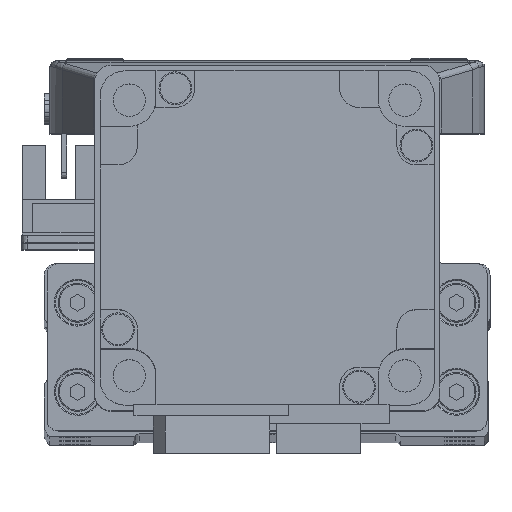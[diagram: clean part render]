
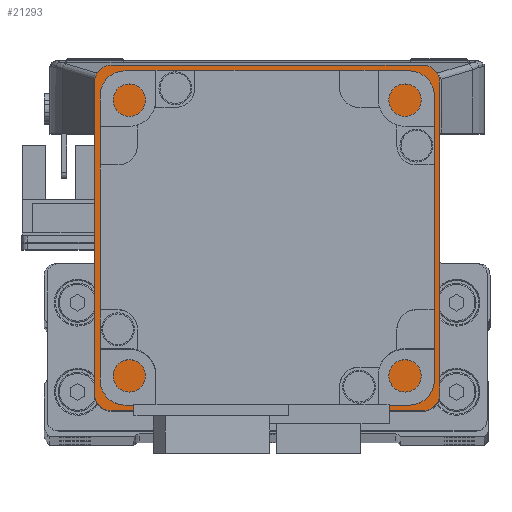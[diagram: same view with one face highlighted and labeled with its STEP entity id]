
A CAD part, top view. The second image highlights one B-rep face of the part: STEP entity #21293.
In plain terms, the highlighted planar face has unit normal (0, 0, 1).
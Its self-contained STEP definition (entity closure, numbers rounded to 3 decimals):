
#1082 = LINE ( 'NONE', #39745, #1092 ) ;
#1092 = VECTOR ( 'NONE', #39771, 1000. ) ;
#1339 = CIRCLE ( 'NONE', #3888, 3. ) ;
#1557 = CIRCLE ( 'NONE', #3851, 3. ) ;
#1560 = CIRCLE ( 'NONE', #3852, 3. ) ;
#1857 = LINE ( 'NONE', #39777, #1942 ) ;
#1942 = VECTOR ( 'NONE', #39743, 1000. ) ;
#1952 = CIRCLE ( 'NONE', #3865, 25. ) ;
#3851 = AXIS2_PLACEMENT_3D ( 'NONE', #39755, #39754, #39742 ) ;
#3852 = AXIS2_PLACEMENT_3D ( 'NONE', #39791, #39792, #39787 ) ;
#3865 = AXIS2_PLACEMENT_3D ( 'NONE', #39784, #39813, #39790 ) ;
#3879 = AXIS2_PLACEMENT_3D ( 'NONE', #40021, #40024, #40015 ) ;
#3888 = AXIS2_PLACEMENT_3D ( 'NONE', #39765, #39773, #39766 ) ;
#3900 = AXIS2_PLACEMENT_3D ( 'NONE', #40102, #40101, #40083 ) ;
#4752 = EDGE_LOOP ( 'NONE', ( #5294, #5270 ) ) ;
#4799 = EDGE_LOOP ( 'NONE', ( #5350, #5361, #5272, #5282, #5378, #5326, #5311, #5320 ) ) ;
#5270 = ORIENTED_EDGE ( 'NONE', *, *, #20031, .F. ) ;
#5272 = ORIENTED_EDGE ( 'NONE', *, *, #19905, .T. ) ;
#5282 = ORIENTED_EDGE ( 'NONE', *, *, #19899, .T. ) ;
#5294 = ORIENTED_EDGE ( 'NONE', *, *, #19906, .F. ) ;
#5311 = ORIENTED_EDGE ( 'NONE', *, *, #19892, .T. ) ;
#5320 = ORIENTED_EDGE ( 'NONE', *, *, #19912, .T. ) ;
#5326 = ORIENTED_EDGE ( 'NONE', *, *, #20004, .T. ) ;
#5350 = ORIENTED_EDGE ( 'NONE', *, *, #19922, .T. ) ;
#5361 = ORIENTED_EDGE ( 'NONE', *, *, #19901, .T. ) ;
#5378 = ORIENTED_EDGE ( 'NONE', *, *, #19923, .T. ) ;
#6030 = AXIS2_PLACEMENT_3D ( 'NONE', #17214, #17216, #17175 ) ;
#11075 = CARTESIAN_POINT ( 'NONE',  ( -25., 35.5, 79. ) ) ;
#11093 = CARTESIAN_POINT ( 'NONE',  ( 25., 35.5, 79. ) ) ;
#12237 = CARTESIAN_POINT ( 'NONE',  ( 27.995, 4.505, 79. ) ) ;
#12265 = CARTESIAN_POINT ( 'NONE',  ( 27.995, 66.495, 79. ) ) ;
#12297 = CARTESIAN_POINT ( 'NONE',  ( -27.995, 4.505, 79. ) ) ;
#12311 = CARTESIAN_POINT ( 'NONE',  ( -30.995, 7.505, 79. ) ) ;
#12346 = CARTESIAN_POINT ( 'NONE',  ( -30.995, 63.495, 79. ) ) ;
#12355 = CARTESIAN_POINT ( 'NONE',  ( -27.995, 66.495, 79. ) ) ;
#12360 = CARTESIAN_POINT ( 'NONE',  ( 30.995, 7.505, 79. ) ) ;
#12391 = CARTESIAN_POINT ( 'NONE',  ( 30.995, 63.495, 79. ) ) ;
#17084 = FACE_BOUND ( 'NONE', #4752, .T. ) ;
#17086 = FACE_OUTER_BOUND ( 'NONE', #4799, .T. ) ;
#17175 = DIRECTION ( 'NONE',  ( 1., 0., 0. ) ) ;
#17207 = PLANE ( 'NONE',  #6030 ) ;
#17214 = CARTESIAN_POINT ( 'NONE',  ( 0., 0., 79. ) ) ;
#17216 = DIRECTION ( 'NONE',  ( 0., 0., 1. ) ) ;
#19892 = EDGE_CURVE ( 'NONE', #45378, #45459, #1082, .T. ) ;
#19899 = EDGE_CURVE ( 'NONE', #45365, #45460, #1339, .T. ) ;
#19901 = EDGE_CURVE ( 'NONE', #45454, #45423, #1557, .T. ) ;
#19905 = EDGE_CURVE ( 'NONE', #45423, #45365, #1857, .T. ) ;
#19906 = EDGE_CURVE ( 'NONE', #27360, #27328, #1952, .T. ) ;
#19912 = EDGE_CURVE ( 'NONE', #45459, #45406, #1560, .T. ) ;
#19922 = EDGE_CURVE ( 'NONE', #45406, #45454, #43462, .T. ) ;
#19923 = EDGE_CURVE ( 'NONE', #45460, #45425, #43512, .T. ) ;
#20004 = EDGE_CURVE ( 'NONE', #45425, #45378, #43748, .T. ) ;
#20031 = EDGE_CURVE ( 'NONE', #27328, #27360, #43872, .T. ) ;
#21293 = ADVANCED_FACE ( 'NONE', ( #17084, #17086 ), #17207, .T. ) ;
#27328 = VERTEX_POINT ( 'NONE', #11075 ) ;
#27360 = VERTEX_POINT ( 'NONE', #11093 ) ;
#39742 = DIRECTION ( 'NONE',  ( 1., 0., 0. ) ) ;
#39743 = DIRECTION ( 'NONE',  ( 1., 0., 0. ) ) ;
#39745 = CARTESIAN_POINT ( 'NONE',  ( 30.995, 66.495, 79. ) ) ;
#39754 = DIRECTION ( 'NONE',  ( 0., 0., 1. ) ) ;
#39755 = CARTESIAN_POINT ( 'NONE',  ( -27.995, 7.505, 79. ) ) ;
#39765 = CARTESIAN_POINT ( 'NONE',  ( 27.995, 7.505, 79. ) ) ;
#39766 = DIRECTION ( 'NONE',  ( 1., 0., 0. ) ) ;
#39771 = DIRECTION ( 'NONE',  ( -1., 0., 0. ) ) ;
#39773 = DIRECTION ( 'NONE',  ( 0., 0., 1. ) ) ;
#39777 = CARTESIAN_POINT ( 'NONE',  ( 30.995, 4.505, 79. ) ) ;
#39784 = CARTESIAN_POINT ( 'NONE',  ( 0., 35.5, 79. ) ) ;
#39787 = DIRECTION ( 'NONE',  ( 1., 0., 0. ) ) ;
#39790 = DIRECTION ( 'NONE',  ( 1., 0., 0. ) ) ;
#39791 = CARTESIAN_POINT ( 'NONE',  ( -27.995, 63.495, 79. ) ) ;
#39792 = DIRECTION ( 'NONE',  ( 0., 0., 1. ) ) ;
#39813 = DIRECTION ( 'NONE',  ( 0., 0., 1. ) ) ;
#39814 = CARTESIAN_POINT ( 'NONE',  ( 30.995, 4.505, 79. ) ) ;
#39815 = DIRECTION ( 'NONE',  ( 0., 1., 0. ) ) ;
#39816 = CARTESIAN_POINT ( 'NONE',  ( -30.995, 4.505, 79. ) ) ;
#39817 = DIRECTION ( 'NONE',  ( 0., -1., 0. ) ) ;
#40015 = DIRECTION ( 'NONE',  ( 1., 0., 0. ) ) ;
#40021 = CARTESIAN_POINT ( 'NONE',  ( 27.995, 63.495, 79. ) ) ;
#40024 = DIRECTION ( 'NONE',  ( 0., 0., 1. ) ) ;
#40083 = DIRECTION ( 'NONE',  ( 1., 0., 0. ) ) ;
#40101 = DIRECTION ( 'NONE',  ( 0., 0., 1. ) ) ;
#40102 = CARTESIAN_POINT ( 'NONE',  ( 0., 35.5, 79. ) ) ;
#43462 = LINE ( 'NONE', #39816, #43520 ) ;
#43500 = VECTOR ( 'NONE', #39815, 1000. ) ;
#43512 = LINE ( 'NONE', #39814, #43500 ) ;
#43520 = VECTOR ( 'NONE', #39817, 1000. ) ;
#43748 = CIRCLE ( 'NONE', #3879, 3. ) ;
#43872 = CIRCLE ( 'NONE', #3900, 25. ) ;
#45365 = VERTEX_POINT ( 'NONE', #12237 ) ;
#45378 = VERTEX_POINT ( 'NONE', #12265 ) ;
#45406 = VERTEX_POINT ( 'NONE', #12346 ) ;
#45423 = VERTEX_POINT ( 'NONE', #12297 ) ;
#45425 = VERTEX_POINT ( 'NONE', #12391 ) ;
#45454 = VERTEX_POINT ( 'NONE', #12311 ) ;
#45459 = VERTEX_POINT ( 'NONE', #12355 ) ;
#45460 = VERTEX_POINT ( 'NONE', #12360 ) ;
